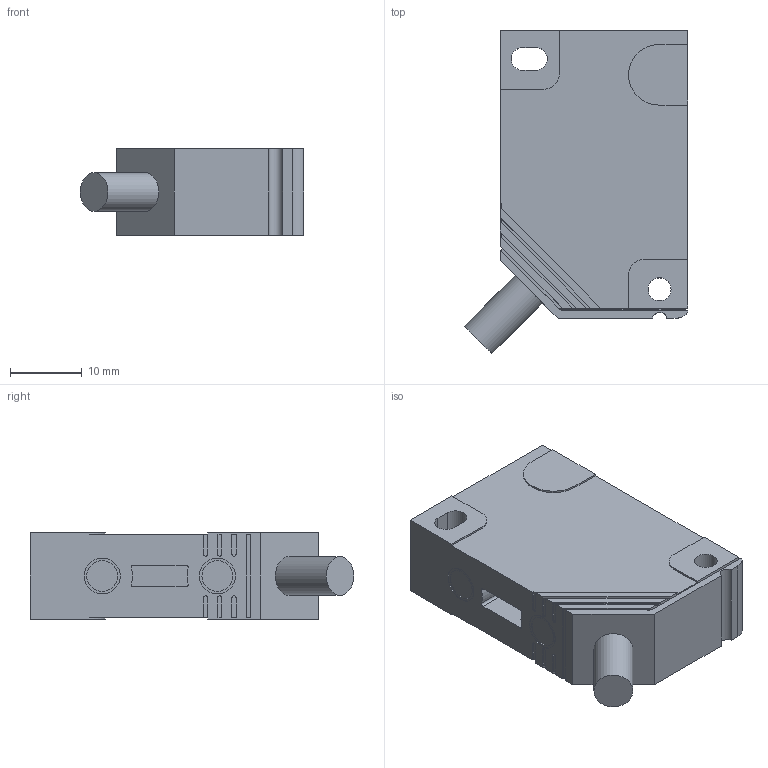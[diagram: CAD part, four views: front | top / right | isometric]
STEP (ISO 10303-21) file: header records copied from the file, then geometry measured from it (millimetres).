
FILE_DESCRIPTION( ( 'STEP AP203' ), '1' );
FILE_NAME( 'p:/temp/worker_7/temp/exporttempdir_1752_27_UZd3B/format_0/IN5208.stp', '2020-06-18T08:47:01', ( 'License CC BY-ND 4.0' ), ( 'CADENAS' ), ' ', 'PARTsolutions', ' ' );
FILE_SCHEMA( ( 'CONFIG_CONTROL_DESIGN' ) );
Length unit declared in the file: millimetre
Products named in the file (1): _IN5208
Bounding box: 31.01 x 44.95 x 12 mm (x, y, z)
Volume: 11555.2 mm3; surface area: 4223.2 mm2
Topology: 1 solids, 1 shells, 196 faces, 522 edges, 345 vertices
Faces by surface type: plane 149, cylinder 47
Full cylindrical faces by diameter (mm): 2 x1, 3.2 x1, 4 x1, 4.3 x2, 5 x2, 5.4 x1, 8 x1
Entity records: 6028 total; most frequent: CARTESIAN_POINT 1049, ORIENTED_EDGE 1020, DIRECTION 998, EDGE_CURVE 510, LINE 416, VECTOR 416, VERTEX_POINT 342, AXIS2_PLACEMENT_3D 291
